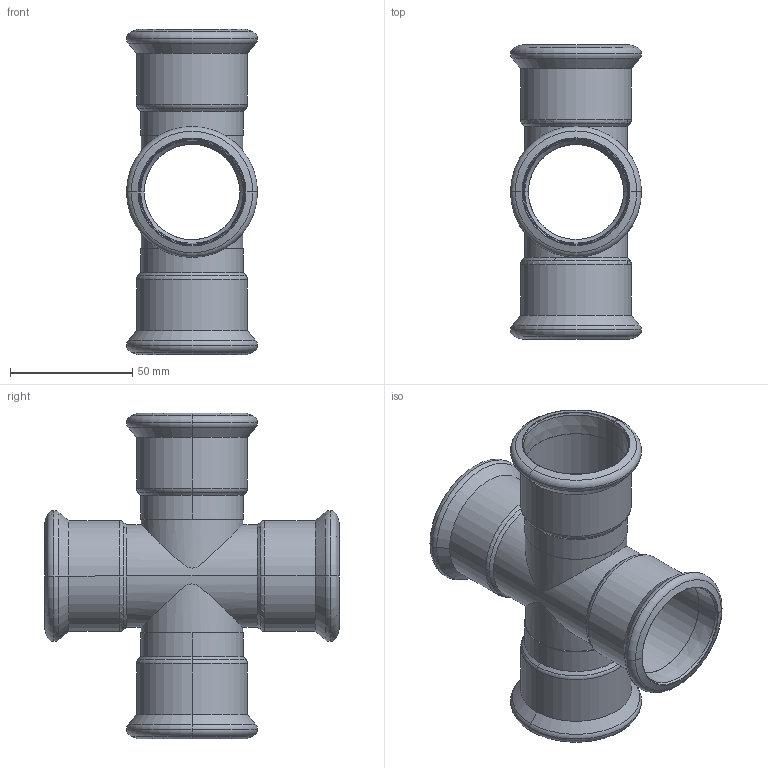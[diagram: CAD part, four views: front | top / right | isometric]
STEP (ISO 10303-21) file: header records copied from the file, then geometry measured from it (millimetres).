
FILE_DESCRIPTION(('CoCreate Modeling STEP Export'),'2;1');
FILE_NAME('C1447 42x42x42x42.stp','2014-11-12T17:16:29',(''),(''),'CoCreate Modeling STEP processor for AP214 (Solid Model)','CoCreate Modeling 17.00A 17-Jun-2010 (C) Parametric Technology GmbH','');
FILE_SCHEMA(('AUTOMOTIVE_DESIGN { 1 0 10303 214 1 1 1 1 }'));
Length unit declared in the file: millimetre
Products named in the file (1): C1447_42x42x42x42
Bounding box: 53.55 x 120.4 x 133 mm (x, y, z)
Volume: 51180.8 mm3; surface area: 58711.6 mm2
Topology: 1 solids, 1 shells, 140 faces, 298 edges, 158 vertices
Faces by surface type: torus 54, cone 54, cylinder 32
Entity records: 6630 total; most frequent: CARTESIAN_POINT 4091, ORIENTED_EDGE 596, DIRECTION 464, EDGE_CURVE 298, AXIS2_PLACEMENT_3D 189, VERTEX_POINT 158, EDGE_LOOP 144, FACE_OUTER_BOUND 140
